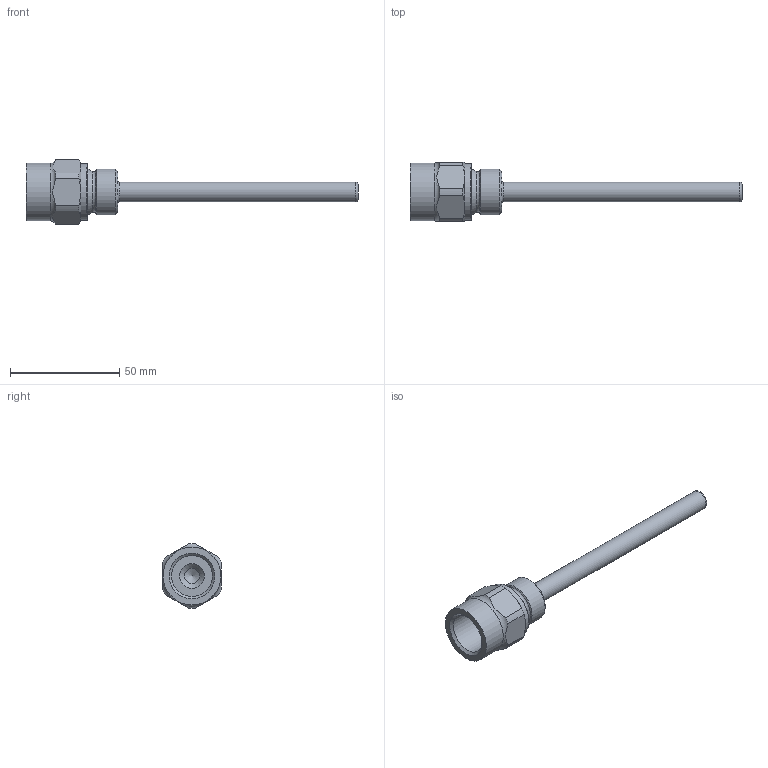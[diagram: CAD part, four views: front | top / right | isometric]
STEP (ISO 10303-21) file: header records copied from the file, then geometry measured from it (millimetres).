
FILE_DESCRIPTION( ( 'STEP AP203' ), ' ' );
FILE_NAME( 'p:/temp/worker_47/1432_3992/app_51_02016062311554697553394192d056f_000000_00_00_000000/format_1/E37620.stp', '2016-06-23T09:55:49', ( '' ), ( '' ), ' ', 'PARTsolutions', ' ' );
FILE_SCHEMA( ( 'CONFIG_CONTROL_DESIGN' ) );
Length unit declared in the file: millimetre
Products named in the file (1): _E37620
Bounding box: 152 x 27 x 29.59 mm (x, y, z)
Volume: 17585.4 mm3; surface area: 11472.1 mm2
Topology: 1 solids, 1 shells, 41 faces, 89 edges, 54 vertices
Faces by surface type: cone 12, plane 12, cylinder 12, torus 5
Full cylindrical faces by diameter (mm): 7 x1, 9 x1, 18.631 x1, 20.955 x1, 26 x1, 26.5 x1
Entity records: 1204 total; most frequent: CARTESIAN_POINT 353, DIRECTION 174, ORIENTED_EDGE 138, AXIS2_PLACEMENT_3D 81, EDGE_CURVE 69, EDGE_LOOP 62, FACE_OUTER_BOUND 52, VERTEX_POINT 52
